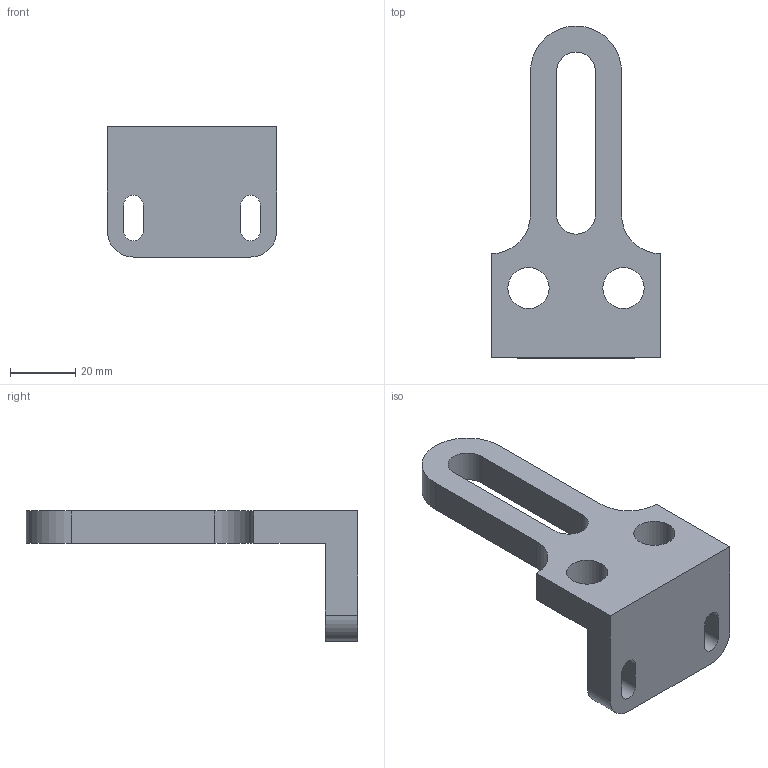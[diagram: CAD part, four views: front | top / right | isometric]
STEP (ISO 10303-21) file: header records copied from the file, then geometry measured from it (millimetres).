
FILE_DESCRIPTION(/* description */ ('Alibre Inc.'),/* implementation_level */ '2;1');
FILE_NAME(/* name */ 'export0',/* time_stamp */ '2005-02-11T17:31:48-06:00',/* author */ (''),/* organization */ (''),/* preprocessor_version */ 'ST-DEVELOPER v10',/* originating_system */ 'Alibre',/* authorisation */ '');
FILE_SCHEMA (('ALIBRE_SCHEMA','CONFIG_CONTROL_DESIGN'));
Length unit declared in the file: centimetre
Products named in the file (1): ID_1
Bounding box: 52 x 102 x 40 mm (x, y, z)
Volume: 40872.1 mm3; surface area: 14314.5 mm2
Topology: 1 solids, 1 shells, 28 faces, 80 edges, 54 vertices
Faces by surface type: plane 15, cylinder 13
Full cylindrical faces by diameter (mm): 12.7 x2
Entity records: 2543 total; most frequent: CARTESIAN_POINT 379, DIRECTION 206, REFERENCEDEPENDENTUV 161, ORIENTED_EDGE 152, CONSTRAINTPAIRUV 137, VECTOR 100, REFERENCEPOINTUV 84, ENTITYHEADERPROPERTIES 77
